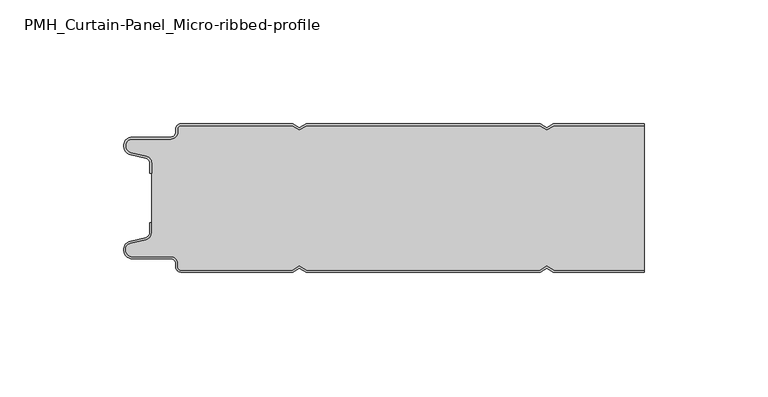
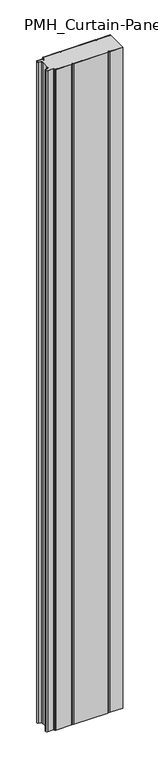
"""IFC4 building model written with IfcOpenShell, lengths in millimetres: plate geometry, PMH_Curtain-Panel_Micro-ribbed-profile : ACH_PMH_Stone-wool-Panel_60M."""

from ifc_helpers import new_model, si_unit, point, frame_2d, origin, origin_with_axes, place, context, project, spatial, polyline, circle_curve, trimmed, segment, composite_curve, outline, extrude, source, transform, mapped, element, save


def pmh_curtain_panel_micro_ribbed_profile_c90d581f(model_context):
    return source(origin(), model_context, "Body", "SweptSolid", [
        extrude(outline(composite_curve([segment(trimmed(circle_curve(frame_2d((-102.0119739, -15.878557)), 2.0), [point((-100.0119739, -15.878557))], [point((-101.5620718, -13.9298169))], True, "CARTESIAN"), True, "CONTINUOUS"), segment(polyline([(-101.5620718, -13.9298169), (-107.7217978, -12.507732)]), True, "CONTINUOUS"), segment(trimmed(circle_curve(frame_2d((-106.9119739, -9.0)), 3.6), [point((-107.7217978, -12.507732))], [point((-106.9119739, -5.4))], False, "CARTESIAN"), True, "CONTINUOUS"), segment(polyline([(-106.9119739, -5.4), (-91.4119739, -5.4)]), True, "CONTINUOUS"), segment(trimmed(circle_curve(frame_2d((-91.4119739, -3.4)), 2.0), [point((-91.4119739, -5.4))], [point((-89.4119739, -3.4))], True, "CARTESIAN"), True, "CONTINUOUS"), segment(polyline([(-89.4119739, -3.4), (-89.4119739, -2.0)]), True, "CONTINUOUS"), segment(trimmed(circle_curve(frame_2d((-87.4119739, -2.0)), 2.0), [point((-89.4119739, -2.0))], [point((-87.4119739, 0.0))], False, "CARTESIAN"), True, "CONTINUOUS"), segment(polyline([(-87.4119739, 0.0), (-42.1119734, 0.0), (-39.4119739, -1.5588455), (-36.7119745, 0.0), (57.8880266, 0.0), (60.5880261, -1.5588455), (63.2880255, 0.0), (100.0119739, 0.0), (100.0119739, -0.8), (63.5023849, -0.8), (60.5880261, -2.482606), (57.6736672, -0.8), (-36.4976151, -0.8), (-39.4119739, -2.482606), (-42.3263328, -0.8), (-87.4119739, -0.8)]), True, "CONTINUOUS"), segment(trimmed(circle_curve(frame_2d((-87.4119739, -2.0)), 1.2), [point((-87.4119739, -0.8))], [point((-88.6119739, -2.0))], True, "CARTESIAN"), True, "CONTINUOUS"), segment(polyline([(-88.6119739, -2.0), (-88.6119739, -3.4)]), True, "CONTINUOUS"), segment(trimmed(circle_curve(frame_2d((-91.4119739, -3.4)), 2.8), [point((-88.6119739, -3.4))], [point((-91.4119739, -6.2))], False, "CARTESIAN"), True, "CONTINUOUS"), segment(polyline([(-91.4119739, -6.2), (-106.9119739, -6.2)]), True, "CONTINUOUS"), segment(trimmed(circle_curve(frame_2d((-106.9119739, -9.0)), 2.8), [point((-106.9119739, -6.2))], [point((-107.541837, -11.7282362))], True, "CARTESIAN"), True, "CONTINUOUS"), segment(polyline([(-107.541837, -11.7282362), (-101.3821109, -13.150321)]), True, "CONTINUOUS"), segment(trimmed(circle_curve(frame_2d((-102.0119739, -15.878557)), 2.8), [point((-101.3821109, -13.150321))], [point((-99.2119739, -15.878557))], False, "CARTESIAN"), True, "CONTINUOUS"), segment(polyline([(-99.2119739, -15.878557), (-99.2119739, -20.0), (-100.0119739, -20.0), (-100.0119739, -15.878557)]), True, "CONTINUOUS")], self_intersect=False)), origin_with_axes(), (0.0, 0.0, 1.0), 1945.7507136),
        extrude(outline(composite_curve([segment(polyline([(-99.2119739, -44.1214426), (-99.2119739, -15.8785573)]), True, "CONTINUOUS"), segment(trimmed(circle_curve(frame_2d((-102.0119739, -15.8785573)), 2.8), [point((-99.2119739, -15.8785573))], [point((-101.3821109, -13.1503212))], True, "CARTESIAN"), True, "CONTINUOUS"), segment(polyline([(-101.3821109, -13.1503212), (-107.541837, -11.7282362)]), True, "CONTINUOUS"), segment(trimmed(circle_curve(frame_2d((-106.911974, -9.0)), 2.8), [point((-107.541837, -11.7282362))], [point((-106.911974, -6.2))], False, "CARTESIAN"), True, "CONTINUOUS"), segment(polyline([(-106.911974, -6.2), (-91.411974, -6.2)]), True, "CONTINUOUS"), segment(trimmed(circle_curve(frame_2d((-91.411974, -3.4)), 2.8), [point((-91.411974, -6.2))], [point((-88.611974, -3.4))], True, "CARTESIAN"), True, "CONTINUOUS"), segment(polyline([(-88.611974, -3.4), (-88.611974, -2.0)]), True, "CONTINUOUS"), segment(trimmed(circle_curve(frame_2d((-87.411974, -2.0)), 1.2), [point((-88.611974, -2.0))], [point((-87.411974, -0.8))], False, "CARTESIAN"), True, "CONTINUOUS"), segment(polyline([(-87.411974, -0.8), (-42.3263329, -0.8), (-39.411974, -2.482606), (-36.4976152, -0.8), (57.6736671, -0.8), (60.588026, -2.482606), (63.5023848, -0.8), (100.0119739, -0.8), (100.0119739, -59.2), (63.5023848, -59.2), (60.588026, -57.517394), (57.6736671, -59.2), (-36.4976152, -59.2), (-39.411974, -57.517394), (-42.3263329, -59.2), (-87.411974, -59.2)]), True, "CONTINUOUS"), segment(trimmed(circle_curve(frame_2d((-87.411974, -58.0)), 1.2), [point((-87.411974, -59.2))], [point((-88.611974, -58.0))], False, "CARTESIAN"), True, "CONTINUOUS"), segment(polyline([(-88.611974, -58.0), (-88.611974, -56.6)]), True, "CONTINUOUS"), segment(trimmed(circle_curve(frame_2d((-91.411974, -56.6)), 2.8), [point((-88.611974, -56.6))], [point((-91.411974, -53.8))], True, "CARTESIAN"), True, "CONTINUOUS"), segment(polyline([(-91.411974, -53.8), (-106.911974, -53.8)]), True, "CONTINUOUS"), segment(trimmed(circle_curve(frame_2d((-106.911974, -51.0)), 2.8), [point((-106.911974, -53.8))], [point((-107.541837, -48.2717638))], False, "CARTESIAN"), True, "CONTINUOUS"), segment(polyline([(-107.541837, -48.2717638), (-101.3821109, -46.8496788)]), True, "CONTINUOUS"), segment(trimmed(circle_curve(frame_2d((-102.0119739, -44.1214426)), 2.8), [point((-101.3821109, -46.8496788))], [point((-99.2119739, -44.1214426))], True, "CARTESIAN"), True, "CONTINUOUS")], self_intersect=False)), origin_with_axes(), (0.0, 0.0, 1.0), 1945.7507136),
        extrude(outline(composite_curve([segment(polyline([(-100.0119739, -44.121443), (-100.0119739, -40.0), (-99.2119739, -40.0), (-99.2119739, -44.121443)]), True, "CONTINUOUS"), segment(trimmed(circle_curve(frame_2d((-102.0119739, -44.121443)), 2.8), [point((-99.2119739, -44.121443))], [point((-101.3821109, -46.8496792))], False, "CARTESIAN"), True, "CONTINUOUS"), segment(polyline([(-101.3821109, -46.8496792), (-107.5418369, -48.271764)]), True, "CONTINUOUS"), segment(trimmed(circle_curve(frame_2d((-106.9119739, -51.0)), 2.8), [point((-107.5418369, -48.271764))], [point((-106.9119739, -53.8))], True, "CARTESIAN"), True, "CONTINUOUS"), segment(polyline([(-106.9119739, -53.8), (-91.4119739, -53.8)]), True, "CONTINUOUS"), segment(trimmed(circle_curve(frame_2d((-91.4119739, -56.6)), 2.8), [point((-91.4119739, -53.8))], [point((-88.6119739, -56.6))], False, "CARTESIAN"), True, "CONTINUOUS"), segment(polyline([(-88.6119739, -56.6), (-88.6119739, -58.0)]), True, "CONTINUOUS"), segment(trimmed(circle_curve(frame_2d((-87.4119739, -58.0)), 1.2), [point((-88.6119739, -58.0))], [point((-87.4119739, -59.2))], True, "CARTESIAN"), True, "CONTINUOUS"), segment(polyline([(-87.4119739, -59.2), (-42.3263328, -59.2), (-39.4119739, -57.517394), (-36.4976151, -59.2), (57.6736672, -59.2), (60.5880261, -57.517394), (63.5023849, -59.2), (100.0119739, -59.2), (100.0119739, -60.0), (63.2880255, -60.0), (60.5880261, -58.4411545), (57.8880266, -60.0), (-36.7119745, -60.0), (-39.4119739, -58.4411545), (-42.1119734, -60.0), (-87.4119739, -60.0)]), True, "CONTINUOUS"), segment(trimmed(circle_curve(frame_2d((-87.4119739, -58.0)), 2.0), [point((-87.4119739, -60.0))], [point((-89.4119739, -58.0))], False, "CARTESIAN"), True, "CONTINUOUS"), segment(polyline([(-89.4119739, -58.0), (-89.4119739, -56.6)]), True, "CONTINUOUS"), segment(trimmed(circle_curve(frame_2d((-91.4119739, -56.6)), 2.0), [point((-89.4119739, -56.6))], [point((-91.4119739, -54.6))], True, "CARTESIAN"), True, "CONTINUOUS"), segment(polyline([(-91.4119739, -54.6), (-106.9119739, -54.6)]), True, "CONTINUOUS"), segment(trimmed(circle_curve(frame_2d((-106.9119739, -51.0)), 3.6), [point((-106.9119739, -54.6))], [point((-107.7217979, -47.4922678))], False, "CARTESIAN"), True, "CONTINUOUS"), segment(polyline([(-107.7217979, -47.4922678), (-101.5620718, -46.070183)]), True, "CONTINUOUS"), segment(trimmed(circle_curve(frame_2d((-102.0119739, -44.121443)), 2.0), [point((-101.5620718, -46.070183))], [point((-100.0119739, -44.121443))], True, "CARTESIAN"), True, "CONTINUOUS")], self_intersect=False)), origin_with_axes(), (0.0, 0.0, 1.0), 1945.7507136),
    ])


if __name__ == "__main__":
    model = new_model("IFC4")
    model_context = context("Model", 3, world=origin())
    ifc_project = project(units=[si_unit("LENGTHUNIT", "METRE", prefix="MILLI")], contexts=[model_context])
    site = spatial("IfcSite", under=ifc_project)
    building = spatial("IfcBuilding", under=site)
    placement = place(None, origin())
    pmh_curtain_panel_micro_ribbed_profile_shape = pmh_curtain_panel_micro_ribbed_profile_c90d581f(model_context)
    element("IfcPlate", 1, ObjectType="PMH_Curtain-Panel_Micro-ribbed-profile : ACH_PMH_Stone-wool-Panel_60M", at=placement, inside=building, context=model_context, shape_type="MappedRepresentation", body=[
        mapped(pmh_curtain_panel_micro_ribbed_profile_shape, transform((0.0, 0.0, 0.0), x_axis=(1.0, 0.0, 0.0), y_axis=(0.0, 1.0, 0.0), z_axis=(0.0, 0.0, 1.0))),
    ])
    save(model, "model.ifc")
